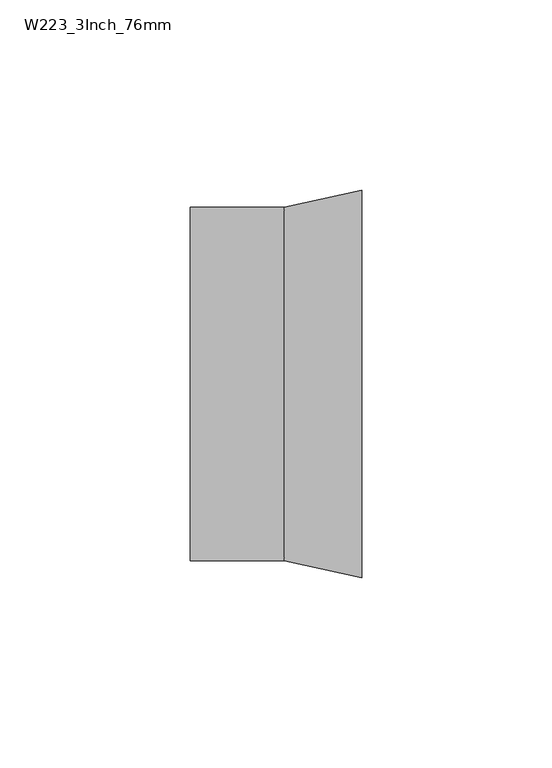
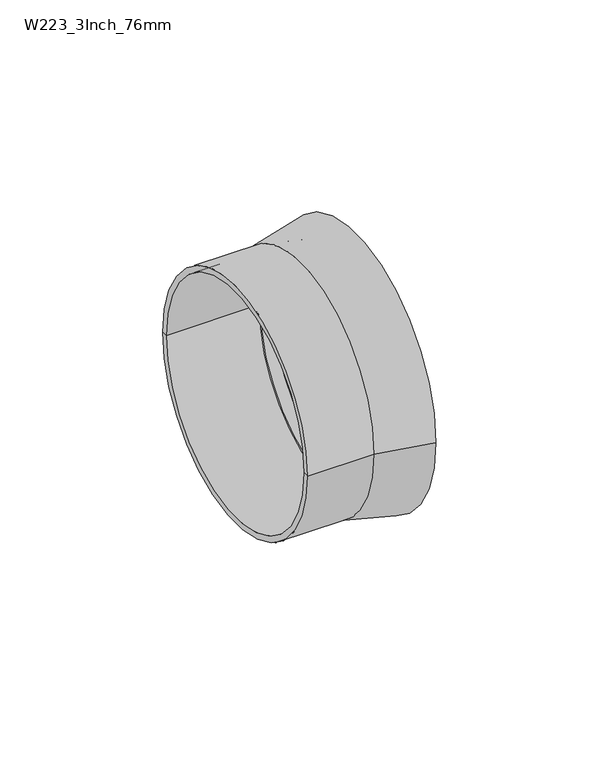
"""IFC4 building model written with IfcOpenShell, lengths in millimetres: pipe fitting geometry, Durapipe_PipeFitting_VulcatheneMechanical_Olive_W22 : W223_3Inch_76mm."""

from ifc_helpers import new_model, si_unit, frame, origin, place, context, project, spatial, polyline, circle_curve, source, transform, mapped, element, save
from ifc_brep_helpers import plane_surface, cylinder_surface, revolved_surface, advanced_brep


def w223_3inch_76mm_ab987528(model_context):
    return source(origin(), model_context, "Body", "AdvancedBrep", [
        advanced_brep(
        [(22.5, -50.9, 0.0), (22.5, 50.9, 0.0), (22.5, 44.3, 0.0), (22.5, -44.3, 0.0), (2.2, -46.5, 0.0), (2.2, 46.5, 0.0), (-22.5, -46.5, 0.0), (-22.5, 46.5, 0.0), (-22.5, -44.3, 0.0), (-22.5, 44.3, 0.0), (11.8, -44.3, 0.0), (11.8, 44.3, 0.0), (11.8, -43.4, 0.0), (11.8, 43.4, 0.0), (16.4, -44.3, 0.0), (16.4, 44.3, 0.0), (16.4, 43.4, 0.0), (16.4, -43.4, 0.0)],
        [
            (0, 1, circle_curve(frame((22.5, 0.0, 0.0), z_axis=(1.0, 0.0, 0.0), x_axis=(0.0, 1.0, 0.0)), 50.9)),
            (1, 2),
            (2, 3, circle_curve(frame((22.5, 0.0, 0.0), z_axis=(-1.0, 0.0, 0.0), x_axis=(0.0, 1.0, 0.0)), 44.3)),
            (3, 0),
            (1, 0, circle_curve(frame((22.5, 0.0, 0.0), z_axis=(1.0, 0.0, 0.0), x_axis=(0.0, 1.0, 0.0)), 50.9)),
            (3, 2, circle_curve(frame((22.5, 0.0, 0.0), z_axis=(-1.0, 0.0, 0.0), x_axis=(0.0, 1.0, 0.0)), 44.3)),
            (0, 4),
            (4, 5, circle_curve(frame((2.2, 0.0, 0.0), z_axis=(1.0, 0.0, 0.0), x_axis=(0.0, 1.0, 0.0)), 46.5)),
            (5, 1),
            (5, 4, circle_curve(frame((2.2, 0.0, 0.0), z_axis=(1.0, 0.0, 0.0), x_axis=(0.0, 1.0, 0.0)), 46.5)),
            (6, 7, circle_curve(frame((-22.5, 0.0, 0.0), z_axis=(1.0, 0.0, 0.0), x_axis=(0.0, 1.0, 0.0)), 46.5)),
            (7, 5),
            (4, 6),
            (7, 6, circle_curve(frame((-22.5, 0.0, 0.0), z_axis=(1.0, 0.0, 0.0), x_axis=(0.0, 1.0, 0.0)), 46.5)),
            (6, 8),
            (8, 9, circle_curve(frame((-22.5, 0.0, 0.0), z_axis=(1.0, 0.0, 0.0), x_axis=(0.0, 1.0, 0.0)), 44.3)),
            (9, 7),
            (9, 8, circle_curve(frame((-22.5, 0.0, 0.0), z_axis=(1.0, 0.0, 0.0), x_axis=(0.0, 1.0, 0.0)), 44.3)),
            (8, 10),
            (10, 11, circle_curve(frame((11.8, 0.0, 0.0), z_axis=(1.0, 0.0, 0.0), x_axis=(0.0, 1.0, 0.0)), 44.3)),
            (11, 9),
            (11, 10, circle_curve(frame((11.8, 0.0, 0.0), z_axis=(1.0, 0.0, 0.0), x_axis=(0.0, 1.0, 0.0)), 44.3)),
            (10, 12),
            (12, 13, circle_curve(frame((11.8, 0.0, 0.0), z_axis=(1.0, 0.0, 0.0), x_axis=(0.0, 1.0, 0.0)), 43.4)),
            (13, 11),
            (13, 12, circle_curve(frame((11.8, 0.0, 0.0), z_axis=(1.0, 0.0, 0.0), x_axis=(0.0, 1.0, 0.0)), 43.4)),
            (14, 15, circle_curve(frame((16.4, 0.0, 0.0), z_axis=(1.0, 0.0, 0.0), x_axis=(0.0, 1.0, 0.0)), 44.3)),
            (15, 16),
            (16, 17, circle_curve(frame((16.4, 0.0, 0.0), z_axis=(-1.0, 0.0, 0.0), x_axis=(0.0, 1.0, 0.0)), 43.4)),
            (17, 14),
            (15, 14, circle_curve(frame((16.4, 0.0, 0.0), z_axis=(1.0, 0.0, 0.0), x_axis=(0.0, 1.0, 0.0)), 44.3)),
            (17, 16, circle_curve(frame((16.4, 0.0, 0.0), z_axis=(-1.0, 0.0, 0.0), x_axis=(0.0, 1.0, 0.0)), 43.4)),
            (2, 15),
            (14, 3),
            (12, 17),
            (16, 13),
        ],
        [
            plane_surface(frame((22.5, 0.0, 0.0), z_axis=(1.0, 0.0, 0.0), x_axis=(0.0, 1.0, 0.0))),
            revolved_surface(polyline([(22.5, 50.9, 0.0), (2.2, 46.5, 0.0)]), (27.5, 0.0, 0.0), (-1.0, 0.0, 0.0)),
            cylinder_surface(frame((-24.5706557, 0.0, 0.0), z_axis=(-1.0, 0.0, 0.0), x_axis=(0.0, 1.0, 0.0)), 46.5),
            plane_surface(frame((-22.5, 0.0, 0.0), z_axis=(-1.0, 0.0, 0.0), x_axis=(0.0, 1.0, 0.0))),
            revolved_surface(polyline([(-22.5, 44.3, 0.0), (11.8, 44.3, 0.0)]), (-25.992991, 0.0, 0.0), (-1.0, 0.0, 0.0)),
            plane_surface(frame((11.8, 0.0, 0.0), z_axis=(-1.0, 0.0, 0.0), x_axis=(0.0, 1.0, 0.0))),
            plane_surface(frame((16.4, 0.0, 0.0), z_axis=(1.0, 0.0, 0.0), x_axis=(0.0, 1.0, 0.0))),
            revolved_surface(polyline([(16.4, 44.3, 0.0), (22.5, 44.3, 0.0)]), (27.5, 0.0, 0.0), (-1.0, 0.0, 0.0)),
            revolved_surface(polyline([(11.8, 43.4, 0.0), (16.4, 43.4, 0.0)]), (24.0661924, 0.0, 0.0), (-1.0, 0.0, 0.0)),
        ],
        [
            (0, [[1, 2, 3, 4]]),
            (0, [[-2, 5, -4, 6]]),
            (1, [[-1, 7, 8, 9]]),
            (1, [[-5, -9, 10, -7]]),
            (2, [[11, 12, -8, 13]]),
            (2, [[-12, 14, -13, -10]]),
            (3, [[-11, 15, 16, 17]]),
            (3, [[-14, -17, 18, -15]]),
            (4, [[19, 20, 21, -16]]),
            (4, [[-19, -18, -21, 22]]),
            (5, [[-20, 23, 24, 25]]),
            (5, [[-22, -25, 26, -23]]),
            (6, [[27, 28, 29, 30]]),
            (6, [[31, -30, 32, -28]]),
            (7, [[-3, 33, -27, 34]]),
            (7, [[-6, -34, -31, -33]]),
            (8, [[35, -29, 36, -24]]),
            (8, [[-35, -26, -36, -32]]),
        ],
    ),
    ])


if __name__ == "__main__":
    model = new_model("IFC4")
    model_context = context("Model", 3, world=origin())
    ifc_project = project(units=[si_unit("LENGTHUNIT", "METRE", prefix="MILLI")], contexts=[model_context])
    site = spatial("IfcSite", under=ifc_project)
    building = spatial("IfcBuilding", under=site)
    placement = place(None, origin())
    w223_3inch_76mm_shape = w223_3inch_76mm_ab987528(model_context)
    element("IfcPipeFitting", 1, ObjectType="Durapipe_PipeFitting_VulcatheneMechanical_Olive_W22 : W223_3Inch_76mm", at=placement, inside=building, context=model_context, shape_type="MappedRepresentation", body=[
        mapped(w223_3inch_76mm_shape, transform((0.0, 0.0, 0.0), x_axis=(1.0, 0.0, 0.0), y_axis=(0.0, 1.0, 0.0), z_axis=(0.0, 0.0, 1.0))),
    ])
    save(model, "model.ifc")
